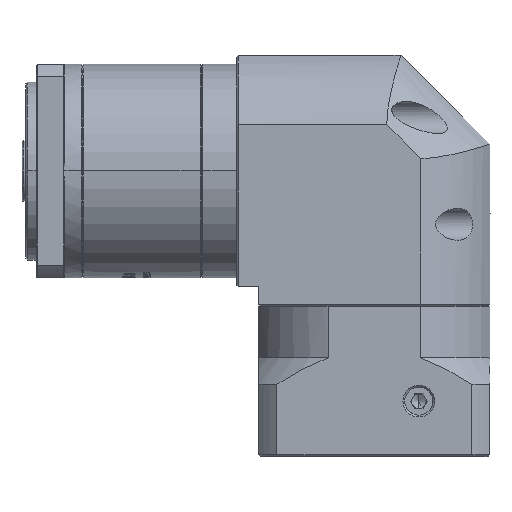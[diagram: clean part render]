
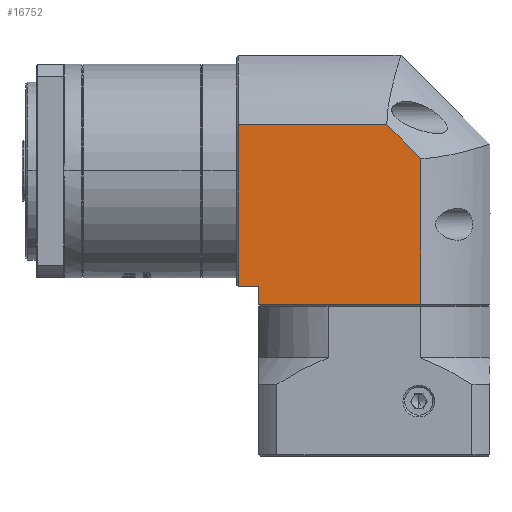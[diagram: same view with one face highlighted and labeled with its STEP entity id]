
A CAD part, top view. The second image highlights one B-rep face of the part: STEP entity #16752.
In plain terms, the highlighted planar face has unit normal (0, 0, 1).
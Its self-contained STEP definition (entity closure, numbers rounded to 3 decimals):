
#1173 = VERTEX_POINT ( 'NONE', #51048 ) ;
#3417 = CARTESIAN_POINT ( 'NONE',  ( -21.987, -34.923, -91.042 ) ) ;
#4177 = DIRECTION ( 'NONE',  ( 0., 1., 0. ) ) ;
#7681 = CARTESIAN_POINT ( 'NONE',  ( -16.287, 30.077, -91.042 ) ) ;
#9010 = DIRECTION ( 'NONE',  ( -1., 0., 0. ) ) ;
#9889 = VECTOR ( 'NONE', #30802, 1000. ) ;
#11666 = VECTOR ( 'NONE', #149833, 1000. ) ;
#16536 = VECTOR ( 'NONE', #4177, 1000. ) ;
#16752 = ADVANCED_FACE ( 'NONE', ( #145458 ), #103615, .F. ) ;
#17224 = CARTESIAN_POINT ( 'NONE',  ( -26.287, -34.923, -91.042 ) ) ;
#17775 = CARTESIAN_POINT ( 'NONE',  ( -21.987, -34.923, -91.042 ) ) ;
#18748 = ORIENTED_EDGE ( 'NONE', *, *, #98113, .T. ) ;
#18853 = CARTESIAN_POINT ( 'NONE',  ( -26.287, -39.923, -91.042 ) ) ;
#20316 = LINE ( 'NONE', #74744, #51871 ) ;
#21696 = EDGE_CURVE ( 'NONE', #38234, #1173, #136116, .T. ) ;
#24845 = EDGE_LOOP ( 'NONE', ( #98324, #73207, #149780, #18748, #121599, #88052, #123611 ) ) ;
#25429 = CARTESIAN_POINT ( 'NONE',  ( 48.713, 10.568, -91.042 ) ) ;
#25679 = LINE ( 'NONE', #17224, #60967 ) ;
#30129 = AXIS2_PLACEMENT_3D ( 'NONE', #151153, #80200, #9010 ) ;
#30802 = DIRECTION ( 'NONE',  ( 1., 0., 0. ) ) ;
#38234 = VERTEX_POINT ( 'NONE', #51751 ) ;
#51048 = CARTESIAN_POINT ( 'NONE',  ( 29.203, -39.923, -91.042 ) ) ;
#51751 = CARTESIAN_POINT ( 'NONE',  ( -16.287, -39.923, -91.042 ) ) ;
#51871 = VECTOR ( 'NONE', #145760, 1000. ) ;
#54308 = VECTOR ( 'NONE', #120432, 1000. ) ;
#60967 = VECTOR ( 'NONE', #147424, 1000. ) ;
#66717 = EDGE_CURVE ( 'NONE', #103253, #126537, #121253, .T. ) ;
#69907 = EDGE_CURVE ( 'NONE', #1173, #140053, #111341, .T. ) ;
#73207 = ORIENTED_EDGE ( 'NONE', *, *, #132680, .T. ) ;
#74744 = CARTESIAN_POINT ( 'NONE',  ( -341.599, 371.872, -91.042 ) ) ;
#79827 = LINE ( 'NONE', #17775, #142830 ) ;
#80200 = DIRECTION ( 'NONE',  ( 0., 0., -1. ) ) ;
#80669 = EDGE_CURVE ( 'NONE', #83714, #97177, #25679, .T. ) ;
#81874 = CARTESIAN_POINT ( 'NONE',  ( -21.987, 10.568, -91.042 ) ) ;
#83714 = VERTEX_POINT ( 'NONE', #3417 ) ;
#88052 = ORIENTED_EDGE ( 'NONE', *, *, #145395, .T. ) ;
#97177 = VERTEX_POINT ( 'NONE', #99197 ) ;
#98113 = EDGE_CURVE ( 'NONE', #126537, #83714, #79827, .T. ) ;
#98324 = ORIENTED_EDGE ( 'NONE', *, *, #69907, .T. ) ;
#99197 = CARTESIAN_POINT ( 'NONE',  ( -16.287, -34.923, -91.042 ) ) ;
#103253 = VERTEX_POINT ( 'NONE', #147684 ) ;
#103615 = PLANE ( 'NONE',  #30129 ) ;
#105177 = CARTESIAN_POINT ( 'NONE',  ( 29.203, 1.07, -91.042 ) ) ;
#111341 = LINE ( 'NONE', #146397, #16536 ) ;
#120432 = DIRECTION ( 'NONE',  ( -1., 0., 0. ) ) ;
#121253 = LINE ( 'NONE', #25429, #54308 ) ;
#121599 = ORIENTED_EDGE ( 'NONE', *, *, #80669, .T. ) ;
#123611 = ORIENTED_EDGE ( 'NONE', *, *, #21696, .T. ) ;
#124714 = DIRECTION ( 'NONE',  ( 0., -1., 0. ) ) ;
#126537 = VERTEX_POINT ( 'NONE', #81874 ) ;
#132680 = EDGE_CURVE ( 'NONE', #140053, #103253, #20316, .T. ) ;
#134188 = LINE ( 'NONE', #7681, #11666 ) ;
#136116 = LINE ( 'NONE', #18853, #9889 ) ;
#140053 = VERTEX_POINT ( 'NONE', #105177 ) ;
#142830 = VECTOR ( 'NONE', #124714, 1000. ) ;
#145395 = EDGE_CURVE ( 'NONE', #97177, #38234, #134188, .T. ) ;
#145458 = FACE_OUTER_BOUND ( 'NONE', #24845, .T. ) ;
#145760 = DIRECTION ( 'NONE',  ( -0.707, 0.707, 0. ) ) ;
#146397 = CARTESIAN_POINT ( 'NONE',  ( 29.203, 30.077, -91.042 ) ) ;
#147424 = DIRECTION ( 'NONE',  ( 1., 0., 0. ) ) ;
#147684 = CARTESIAN_POINT ( 'NONE',  ( 19.706, 10.568, -91.042 ) ) ;
#149780 = ORIENTED_EDGE ( 'NONE', *, *, #66717, .T. ) ;
#149833 = DIRECTION ( 'NONE',  ( 0., -1., 0. ) ) ;
#151153 = CARTESIAN_POINT ( 'NONE',  ( -26.287, 30.077, -91.042 ) ) ;
